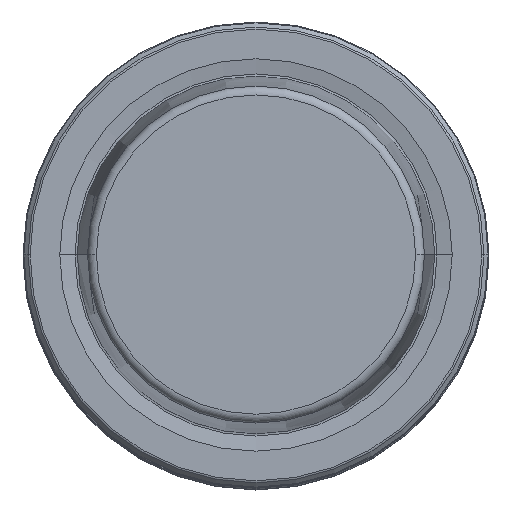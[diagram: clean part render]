
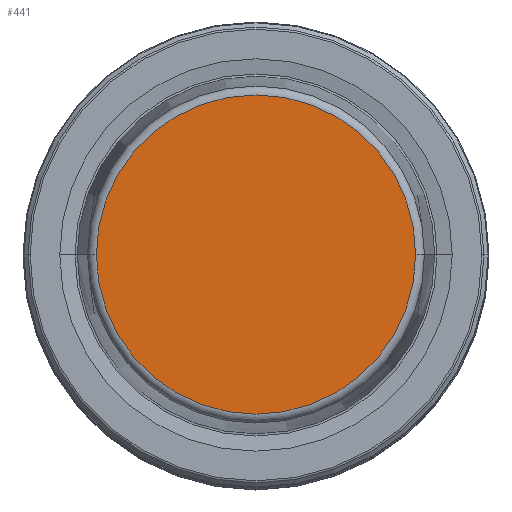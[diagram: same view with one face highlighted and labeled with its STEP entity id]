
A CAD part, top view. The second image highlights one B-rep face of the part: STEP entity #441.
In plain terms, the highlighted planar face has unit normal (0, 0, 1).
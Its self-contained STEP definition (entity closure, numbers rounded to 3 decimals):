
#12 = CARTESIAN_POINT ( 'NONE',  ( 0., 0., 31.9 ) ) ;
#104 = VERTEX_POINT ( 'NONE', #459 ) ;
#348 = DIRECTION ( 'NONE',  ( 0., 0., 1. ) ) ;
#361 = DIRECTION ( 'NONE',  ( 1., 0., 0. ) ) ;
#400 = AXIS2_PLACEMENT_3D ( 'NONE', #1053, #348, #1153 ) ;
#441 = ADVANCED_FACE ( 'NONE', ( #988 ), #522, .F. ) ;
#459 = CARTESIAN_POINT ( 'NONE',  ( -21.581, 0., 31.9 ) ) ;
#522 = PLANE ( 'NONE',  #728 ) ;
#543 = EDGE_CURVE ( 'NONE', #720, #104, #1168, .T. ) ;
#651 = DIRECTION ( 'NONE',  ( -1., 0., 0. ) ) ;
#677 = AXIS2_PLACEMENT_3D ( 'NONE', #12, #731, #361 ) ;
#720 = VERTEX_POINT ( 'NONE', #800 ) ;
#728 = AXIS2_PLACEMENT_3D ( 'NONE', #893, #1444, #651 ) ;
#731 = DIRECTION ( 'NONE',  ( 0., 0., 1. ) ) ;
#800 = CARTESIAN_POINT ( 'NONE',  ( 21.581, 0., 31.9 ) ) ;
#854 = ORIENTED_EDGE ( 'NONE', *, *, #543, .T. ) ;
#893 = CARTESIAN_POINT ( 'NONE',  ( 0., 0., 31.9 ) ) ;
#984 = CIRCLE ( 'NONE', #400, 21.581 ) ;
#988 = FACE_OUTER_BOUND ( 'NONE', #1055, .T. ) ;
#1053 = CARTESIAN_POINT ( 'NONE',  ( 0., 0., 31.9 ) ) ;
#1055 = EDGE_LOOP ( 'NONE', ( #854, #1266 ) ) ;
#1153 = DIRECTION ( 'NONE',  ( 1., 0., 0. ) ) ;
#1168 = CIRCLE ( 'NONE', #677, 21.581 ) ;
#1266 = ORIENTED_EDGE ( 'NONE', *, *, #1482, .T. ) ;
#1444 = DIRECTION ( 'NONE',  ( 0., 0., -1. ) ) ;
#1482 = EDGE_CURVE ( 'NONE', #104, #720, #984, .T. ) ;
